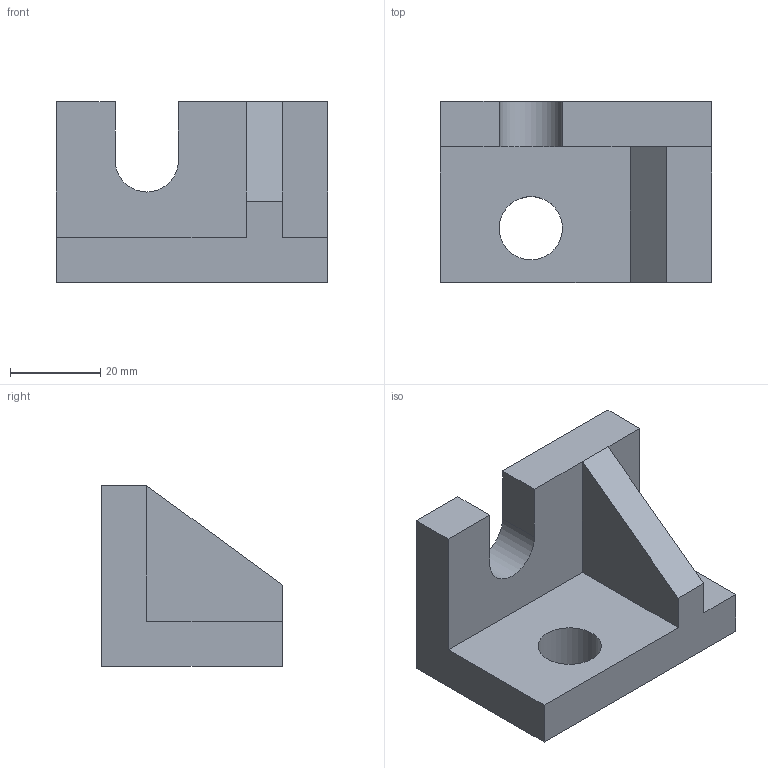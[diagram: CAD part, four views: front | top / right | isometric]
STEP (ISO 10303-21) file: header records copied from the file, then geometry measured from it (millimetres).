
FILE_DESCRIPTION(('Open CASCADE Model'),'2;1');
FILE_NAME('Open CASCADE Shape Model','2026-11-02T09:50:35',('Author'),( 'Open CASCADE'),'Open CASCADE STEP processor 7.8','Open CASCADE 7.8' ,'Unknown');
FILE_SCHEMA(('AUTOMOTIVE_DESIGN { 1 0 10303 214 1 1 1 1 }'));
Length unit declared in the file: millimetre
Products named in the file (1): Open CASCADE STEP translator 7.8 4
Bounding box: 60 x 40 x 40 mm (x, y, z)
Volume: 42430.9 mm3; surface area: 11975.5 mm2
Topology: 1 solids, 1 shells, 18 faces, 46 edges, 30 vertices
Faces by surface type: plane 16, cylinder 2
Full cylindrical faces by diameter (mm): 14 x1
Entity records: 1144 total; most frequent: CARTESIAN_POINT 211, DIRECTION 166, LINE 118, VECTOR 118, ORIENTED_EDGE 92, PCURVE 92, DEFINITIONAL_REPRESENTATION 92, EDGE_CURVE 46
